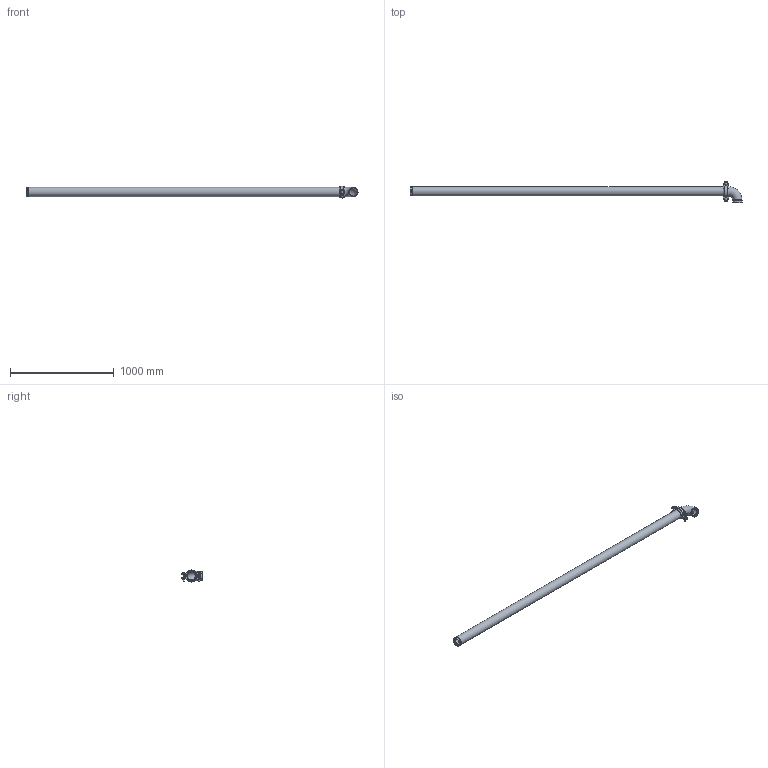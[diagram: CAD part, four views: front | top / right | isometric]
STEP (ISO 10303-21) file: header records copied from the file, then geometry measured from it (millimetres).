
FILE_DESCRIPTION(/* description */ ('VIC LONG RUN FITTING No R13 (OGS)','CAx-IF Rec.Pracs.---Representation and Presentation of Product Manufacturing Information (PMI)---4.0---2014-10-13'),/* implementation_level */ '2;1');
FILE_NAME(/* name */ 'C:\Users\Vjadhav\AppData\Roaming\Autodesk\ApplicationPlugins\Back Up\Victaulic_IPS_Long Run Fittings_No R13 (OGS)\Victaulic_IPS_Long Run Fittings_No R13 (OGS)_3 (80).stp',/* time_stamp */ '2020-10-06T18:26:33+06:00',/* author */ ('Vjadhav'),/* organization */ ('Victaulic'),/* preprocessor_version */ 'ST-DEVELOPER v17.2',/* originating_system */ 'Autodesk Inventor 2019',/* authorisation */ '');
FILE_SCHEMA (('AP242_MANAGED_MODEL_BASED_3D_ENGINEERING_MIM_LF { 1 0 10303 442 1 1 4 }'));
Length unit declared in the file: inch
Products named in the file (4): R13-03.0; 010-03.0; 107N-03.0; Pipe_R13-03.0
Assembly tree (3 placements, depth 2):
  R13-03.0
    010-03.0
    107N-03.0
    Pipe_R13-03.0
Bounding box: 3204.21 x 203.2 x 117.6 mm (x, y, z)
Volume: 4947840.3 mm3; surface area: 1768484.5 mm2
Topology: 3 solids, 3 shells, 149 faces, 383 edges, 256 vertices
Faces by surface type: plane 62, cylinder 57, bspline 18, torus 6, cone 4, sphere 2
Full cylindrical faces by diameter (mm): 12.7 x4, 22.225 x2, 76.2 x1, 77.927 x3, 84.938 x4, 88.9 x7
Entity records: 5588 total; most frequent: CARTESIAN_POINT 1559, DIRECTION 805, ORIENTED_EDGE 766, EDGE_CURVE 383, AXIS2_PLACEMENT_3D 316, VERTEX_POINT 256, EDGE_LOOP 175, LINE 173
